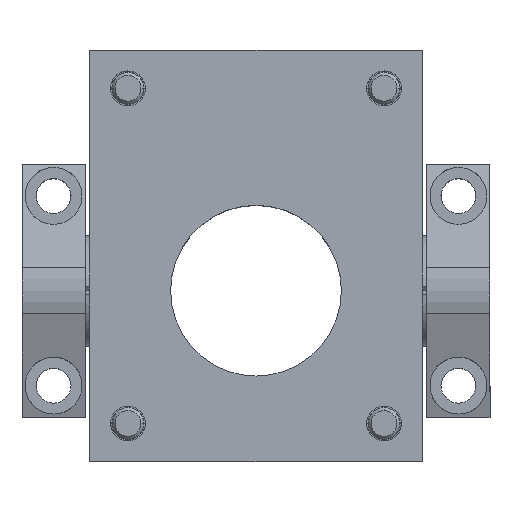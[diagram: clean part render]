
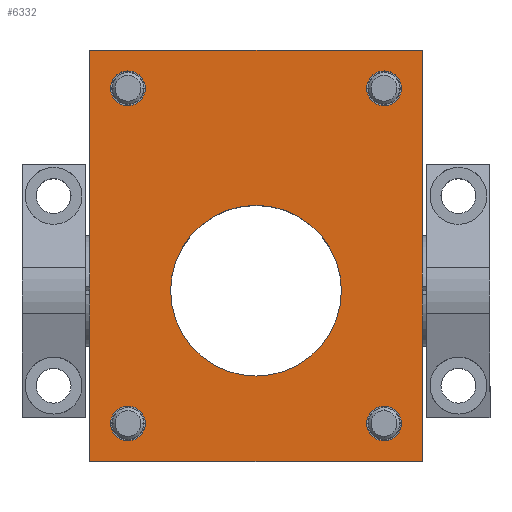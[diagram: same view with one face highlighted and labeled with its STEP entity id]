
A CAD part, top view. The second image highlights one B-rep face of the part: STEP entity #6332.
In plain terms, the highlighted planar face has unit normal (0, 0, 1).
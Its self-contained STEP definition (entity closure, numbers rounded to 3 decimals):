
#77 = DIRECTION ( 'NONE',  ( 0., 1., 0. ) ) ;
#174 = CARTESIAN_POINT ( 'NONE',  ( 40.5, 64., -32. ) ) ;
#310 = CARTESIAN_POINT ( 'NONE',  ( 0., -27., -32. ) ) ;
#332 = CARTESIAN_POINT ( 'NONE',  ( -40.5, -36.5, -32. ) ) ;
#399 = CIRCLE ( 'NONE', #5179, 5.5 ) ;
#470 = VERTEX_POINT ( 'NONE', #3398 ) ;
#488 = VECTOR ( 'NONE', #3346, 1000. ) ;
#519 = AXIS2_PLACEMENT_3D ( 'NONE', #3602, #3034, #603 ) ;
#522 = DIRECTION ( 'NONE',  ( 0., 0., -1. ) ) ;
#593 = VECTOR ( 'NONE', #6585, 1000. ) ;
#603 = DIRECTION ( 'NONE',  ( 0., 1., 0. ) ) ;
#607 = CIRCLE ( 'NONE', #5921, 27. ) ;
#651 = DIRECTION ( 'NONE',  ( 0., 1., 0. ) ) ;
#655 = VERTEX_POINT ( 'NONE', #4085 ) ;
#673 = DIRECTION ( 'NONE',  ( 0., 1., 0. ) ) ;
#701 = CIRCLE ( 'NONE', #4943, 27. ) ;
#704 = DIRECTION ( 'NONE',  ( 0., 0., 1. ) ) ;
#760 = ORIENTED_EDGE ( 'NONE', *, *, #2338, .F. ) ;
#828 = CARTESIAN_POINT ( 'NONE',  ( -52.5, 76., -32. ) ) ;
#863 = ORIENTED_EDGE ( 'NONE', *, *, #3578, .T. ) ;
#1119 = CARTESIAN_POINT ( 'NONE',  ( -40.5, 64., -32. ) ) ;
#1177 = CARTESIAN_POINT ( 'NONE',  ( 40.5, -42., -32. ) ) ;
#1205 = DIRECTION ( 'NONE',  ( 0., 1., 0. ) ) ;
#1232 = FACE_BOUND ( 'NONE', #4816, .T. ) ;
#1276 = DIRECTION ( 'NONE',  ( 0., 1., 0. ) ) ;
#1319 = LINE ( 'NONE', #828, #488 ) ;
#1328 = CARTESIAN_POINT ( 'NONE',  ( -40.5, -42., -32. ) ) ;
#1378 = LINE ( 'NONE', #6001, #1454 ) ;
#1454 = VECTOR ( 'NONE', #2475, 1000. ) ;
#1546 = VERTEX_POINT ( 'NONE', #5117 ) ;
#1557 = CIRCLE ( 'NONE', #2726, 5.5 ) ;
#1712 = VERTEX_POINT ( 'NONE', #5374 ) ;
#1732 = CARTESIAN_POINT ( 'NONE',  ( 0., 11., -32. ) ) ;
#1737 = DIRECTION ( 'NONE',  ( 0., 0., -1. ) ) ;
#1818 = LINE ( 'NONE', #2853, #3998 ) ;
#1875 = EDGE_LOOP ( 'NONE', ( #3300, #5973 ) ) ;
#1922 = CARTESIAN_POINT ( 'NONE',  ( 0., 27., -32. ) ) ;
#2145 = EDGE_LOOP ( 'NONE', ( #6341, #5777 ) ) ;
#2154 = ORIENTED_EDGE ( 'NONE', *, *, #3465, .T. ) ;
#2178 = CARTESIAN_POINT ( 'NONE',  ( 40.5, 69.5, -32. ) ) ;
#2203 = FACE_OUTER_BOUND ( 'NONE', #3192, .T. ) ;
#2267 = DIRECTION ( 'NONE',  ( 0., -1., 0. ) ) ;
#2331 = EDGE_CURVE ( 'NONE', #4722, #4175, #701, .T. ) ;
#2335 = DIRECTION ( 'NONE',  ( 0., 1., 0. ) ) ;
#2338 = EDGE_CURVE ( 'NONE', #2376, #1546, #4135, .T. ) ;
#2376 = VERTEX_POINT ( 'NONE', #5799 ) ;
#2451 = VERTEX_POINT ( 'NONE', #4196 ) ;
#2475 = DIRECTION ( 'NONE',  ( 1., 0., 0. ) ) ;
#2606 = ORIENTED_EDGE ( 'NONE', *, *, #3325, .F. ) ;
#2609 = DIRECTION ( 'NONE',  ( 0., 0., -1. ) ) ;
#2685 = EDGE_LOOP ( 'NONE', ( #3403, #4077 ) ) ;
#2704 = DIRECTION ( 'NONE',  ( 0., 1., 0. ) ) ;
#2726 = AXIS2_PLACEMENT_3D ( 'NONE', #4766, #3833, #2704 ) ;
#2751 = DIRECTION ( 'NONE',  ( 0., 0., -1. ) ) ;
#2773 = DIRECTION ( 'NONE',  ( 0., 1., 0. ) ) ;
#2835 = DIRECTION ( 'NONE',  ( 0., 0., -1. ) ) ;
#2838 = PLANE ( 'NONE',  #5384 ) ;
#2853 = CARTESIAN_POINT ( 'NONE',  ( 52.5, -54., -32. ) ) ;
#2933 = VERTEX_POINT ( 'NONE', #4368 ) ;
#2943 = CIRCLE ( 'NONE', #3149, 5.5 ) ;
#3026 = EDGE_CURVE ( 'NONE', #1712, #2933, #2943, .T. ) ;
#3034 = DIRECTION ( 'NONE',  ( 0., 0., -1. ) ) ;
#3128 = EDGE_CURVE ( 'NONE', #655, #2376, #1818, .T. ) ;
#3145 = VERTEX_POINT ( 'NONE', #2178 ) ;
#3149 = AXIS2_PLACEMENT_3D ( 'NONE', #1119, #522, #651 ) ;
#3170 = CARTESIAN_POINT ( 'NONE',  ( 40.5, -42., -32. ) ) ;
#3192 = EDGE_LOOP ( 'NONE', ( #2606, #5414, #760, #3318 ) ) ;
#3232 = VERTEX_POINT ( 'NONE', #4471 ) ;
#3300 = ORIENTED_EDGE ( 'NONE', *, *, #3026, .T. ) ;
#3317 = ORIENTED_EDGE ( 'NONE', *, *, #4736, .T. ) ;
#3318 = ORIENTED_EDGE ( 'NONE', *, *, #3128, .F. ) ;
#3323 = FACE_BOUND ( 'NONE', #3731, .T. ) ;
#3325 = EDGE_CURVE ( 'NONE', #3232, #655, #1378, .T. ) ;
#3346 = DIRECTION ( 'NONE',  ( 0., 1., 0. ) ) ;
#3386 = CIRCLE ( 'NONE', #519, 5.5 ) ;
#3398 = CARTESIAN_POINT ( 'NONE',  ( 40.5, 58.5, -32. ) ) ;
#3403 = ORIENTED_EDGE ( 'NONE', *, *, #4690, .T. ) ;
#3465 = EDGE_CURVE ( 'NONE', #5779, #4279, #4656, .T. ) ;
#3557 = VERTEX_POINT ( 'NONE', #332 ) ;
#3578 = EDGE_CURVE ( 'NONE', #2451, #3557, #4432, .T. ) ;
#3602 = CARTESIAN_POINT ( 'NONE',  ( -40.5, -42., -32. ) ) ;
#3658 = EDGE_CURVE ( 'NONE', #470, #3145, #399, .T. ) ;
#3700 = DIRECTION ( 'NONE',  ( 0., 1., 0. ) ) ;
#3731 = EDGE_LOOP ( 'NONE', ( #3317, #2154 ) ) ;
#3741 = CARTESIAN_POINT ( 'NONE',  ( 0., 0., -32. ) ) ;
#3833 = DIRECTION ( 'NONE',  ( 0., 0., -1. ) ) ;
#3902 = AXIS2_PLACEMENT_3D ( 'NONE', #1177, #5265, #673 ) ;
#3938 = EDGE_CURVE ( 'NONE', #1546, #3232, #1319, .T. ) ;
#3998 = VECTOR ( 'NONE', #6257, 1000. ) ;
#4077 = ORIENTED_EDGE ( 'NONE', *, *, #3658, .T. ) ;
#4085 = CARTESIAN_POINT ( 'NONE',  ( 52.5, 76., -32. ) ) ;
#4135 = LINE ( 'NONE', #6180, #593 ) ;
#4175 = VERTEX_POINT ( 'NONE', #1922 ) ;
#4196 = CARTESIAN_POINT ( 'NONE',  ( -40.5, -47.5, -32. ) ) ;
#4262 = FACE_BOUND ( 'NONE', #2685, .T. ) ;
#4279 = VERTEX_POINT ( 'NONE', #4579 ) ;
#4368 = CARTESIAN_POINT ( 'NONE',  ( -40.5, 58.5, -32. ) ) ;
#4432 = CIRCLE ( 'NONE', #5823, 5.5 ) ;
#4471 = CARTESIAN_POINT ( 'NONE',  ( -52.5, 76., -32. ) ) ;
#4579 = CARTESIAN_POINT ( 'NONE',  ( 40.5, -36.5, -32. ) ) ;
#4635 = CARTESIAN_POINT ( 'NONE',  ( 0., 0., -32. ) ) ;
#4656 = CIRCLE ( 'NONE', #5599, 5.5 ) ;
#4690 = EDGE_CURVE ( 'NONE', #3145, #470, #5386, .T. ) ;
#4722 = VERTEX_POINT ( 'NONE', #310 ) ;
#4736 = EDGE_CURVE ( 'NONE', #4279, #5779, #6358, .T. ) ;
#4764 = EDGE_CURVE ( 'NONE', #4175, #4722, #607, .T. ) ;
#4766 = CARTESIAN_POINT ( 'NONE',  ( -40.5, 64., -32. ) ) ;
#4816 = EDGE_LOOP ( 'NONE', ( #5276, #863 ) ) ;
#4943 = AXIS2_PLACEMENT_3D ( 'NONE', #4635, #2609, #77 ) ;
#4993 = EDGE_CURVE ( 'NONE', #3557, #2451, #3386, .T. ) ;
#5117 = CARTESIAN_POINT ( 'NONE',  ( -52.5, -54., -32. ) ) ;
#5179 = AXIS2_PLACEMENT_3D ( 'NONE', #5351, #2835, #2335 ) ;
#5197 = DIRECTION ( 'NONE',  ( 0., 0., -1. ) ) ;
#5205 = EDGE_CURVE ( 'NONE', #2933, #1712, #1557, .T. ) ;
#5265 = DIRECTION ( 'NONE',  ( 0., 0., -1. ) ) ;
#5276 = ORIENTED_EDGE ( 'NONE', *, *, #4993, .T. ) ;
#5351 = CARTESIAN_POINT ( 'NONE',  ( 40.5, 64., -32. ) ) ;
#5374 = CARTESIAN_POINT ( 'NONE',  ( -40.5, 69.5, -32. ) ) ;
#5384 = AXIS2_PLACEMENT_3D ( 'NONE', #1732, #704, #2267 ) ;
#5386 = CIRCLE ( 'NONE', #6030, 5.5 ) ;
#5414 = ORIENTED_EDGE ( 'NONE', *, *, #3938, .F. ) ;
#5599 = AXIS2_PLACEMENT_3D ( 'NONE', #3170, #5197, #3700 ) ;
#5777 = ORIENTED_EDGE ( 'NONE', *, *, #2331, .T. ) ;
#5779 = VERTEX_POINT ( 'NONE', #6076 ) ;
#5799 = CARTESIAN_POINT ( 'NONE',  ( 52.5, -54., -32. ) ) ;
#5823 = AXIS2_PLACEMENT_3D ( 'NONE', #1328, #5924, #2773 ) ;
#5861 = FACE_BOUND ( 'NONE', #1875, .T. ) ;
#5921 = AXIS2_PLACEMENT_3D ( 'NONE', #3741, #1737, #1205 ) ;
#5924 = DIRECTION ( 'NONE',  ( 0., 0., -1. ) ) ;
#5973 = ORIENTED_EDGE ( 'NONE', *, *, #5205, .T. ) ;
#6001 = CARTESIAN_POINT ( 'NONE',  ( 52.5, 76., -32. ) ) ;
#6030 = AXIS2_PLACEMENT_3D ( 'NONE', #174, #2751, #1276 ) ;
#6076 = CARTESIAN_POINT ( 'NONE',  ( 40.5, -47.5, -32. ) ) ;
#6180 = CARTESIAN_POINT ( 'NONE',  ( -52.5, -54., -32. ) ) ;
#6257 = DIRECTION ( 'NONE',  ( 0., -1., 0. ) ) ;
#6305 = FACE_BOUND ( 'NONE', #2145, .T. ) ;
#6332 = ADVANCED_FACE ( 'NONE', ( #6305, #5861, #3323, #1232, #4262, #2203 ), #2838, .T. ) ;
#6341 = ORIENTED_EDGE ( 'NONE', *, *, #4764, .T. ) ;
#6358 = CIRCLE ( 'NONE', #3902, 5.5 ) ;
#6585 = DIRECTION ( 'NONE',  ( -1., 0., 0. ) ) ;
